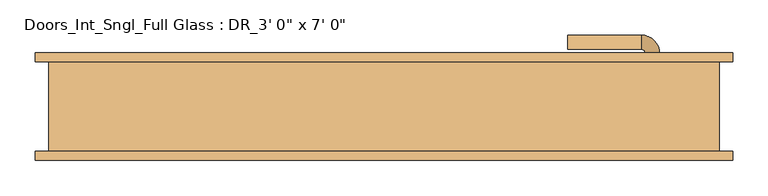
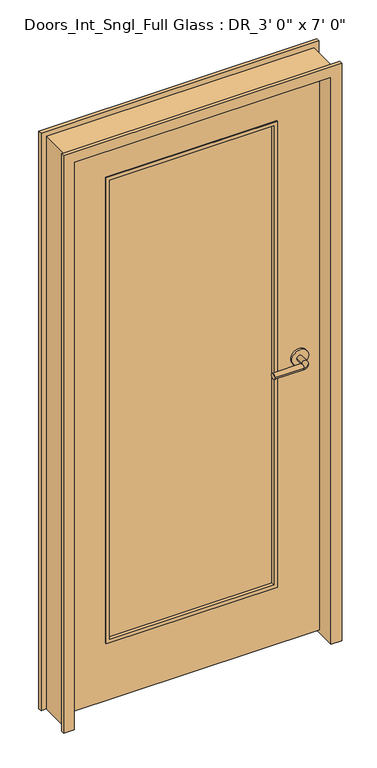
"""IFC4 building model written with IfcOpenShell, lengths in millimetres: door geometry."""

from ifc_helpers import new_model, si_unit, point, frame, frame_2d, origin, place, context, project, spatial, polyline, circle_curve, ellipse_curve, trimmed, segment, composite_curve, outline, extrude, faceted_brep, source, transform, mapped, element, save
from ifc_brep_helpers import plane_surface, cylinder_surface, revolved_surface, advanced_brep


def door_d7cb423d(model_context):
    return source(origin(), model_context, "Body", "SolidModel", [
        advanced_brep(
        [(391.0, 46.1, 1066.8), (371.0, 46.1, 1066.8), (371.0, 76.1, 1066.8), (391.0, 76.1, 1066.8), (366.0, 81.1, 1066.8), (366.0, 101.1, 1066.8), (261.0, 101.1, 1066.8), (261.0, 81.1, 1066.8)],
        [
            (0, 1, circle_curve(frame((381.0, 46.1, 1066.8), z_axis=(0.0, -1.0, 0.0), x_axis=(-0.9999999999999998, 0.0, 0.0)), 10.0)),
            (1, 0, circle_curve(frame((381.0, 46.1, 1066.8), z_axis=(0.0, -1.0, 0.0), x_axis=(-0.9999999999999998, 0.0, 0.0)), 10.0)),
            (1, 2),
            (2, 3, circle_curve(frame((381.0, 76.1, 1066.8), z_axis=(0.0, -1.0, 0.0), x_axis=(-0.9999999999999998, 0.0, 0.0)), 10.0)),
            (3, 0),
            (3, 2, circle_curve(frame((381.0, 76.1, 1066.8), z_axis=(0.0, -1.0, 0.0), x_axis=(-0.9999999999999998, 0.0, 0.0)), 10.0)),
            (4, 5, circle_curve(frame((366.0, 91.1, 1066.8), z_axis=(0.9999999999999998, 0.0, 0.0), x_axis=(0.0, -0.9999999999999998, 0.0)), 10.0)),
            (5, 3, circle_curve(frame((366.0, 76.1, 1066.8), z_axis=(0.0, 0.0, -1.0), x_axis=(0.9999999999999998, 0.0, 0.0)), 25.0)),
            (2, 4, circle_curve(frame((366.0, 76.1, 1066.8), z_axis=(0.0, 0.0, 1.0), x_axis=(0.9999999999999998, 0.0, 0.0)), 5.0)),
            (5, 4, circle_curve(frame((366.0, 91.1, 1066.8), z_axis=(0.9999999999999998, 0.0, 0.0), x_axis=(0.0, -0.9999999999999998, 0.0)), 10.0)),
            (6, 7, circle_curve(frame((261.0, 91.1, 1066.8), z_axis=(-1.0, 0.0, 0.0), x_axis=(0.0, -0.9999999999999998, 0.0)), 10.0)),
            (7, 6, circle_curve(frame((261.0, 91.1, 1066.8), z_axis=(-1.0, 0.0, 0.0), x_axis=(0.0, -0.9999999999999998, 0.0)), 10.0)),
            (4, 7),
            (6, 5),
        ],
        [
            plane_surface(frame((381.0, 46.1, 1066.8), z_axis=(0.0, -1.0, 0.0), x_axis=(0.0, 0.0, 1.0))),
            cylinder_surface(frame((381.0, 46.1, 1066.8), z_axis=(0.0, -0.9999999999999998, 0.0), x_axis=(-0.9999999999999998, 0.0, 0.0)), 10.0),
            revolved_surface(trimmed(ellipse_curve(frame((381.0, 76.1, 1066.8), z_axis=(0.0, 0.9999999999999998, 0.0), x_axis=(-0.9999999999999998, 0.0, 0.0)), 10.0, 10.0), [point((391.0, 76.1, 1066.8))], [point((371.0, 76.1, 1066.8))], True, "CARTESIAN"), (366.0, 76.1, 1066.8), (0.0, 0.0, -1.0)),
            revolved_surface(trimmed(ellipse_curve(frame((381.0, 76.1, 1066.8), z_axis=(0.0, 0.9999999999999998, 0.0), x_axis=(-0.9999999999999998, 0.0, 0.0)), 10.0, 10.0), [point((371.0, 76.1, 1066.8))], [point((391.0, 76.1, 1066.8))], True, "CARTESIAN"), (366.0, 76.1, 1066.8), (0.0, 0.0, -1.0)),
            plane_surface(frame((261.0, 91.1, 1066.8), z_axis=(-1.0, 0.0, 0.0), x_axis=(0.0, 0.0, 1.0))),
            cylinder_surface(frame((366.0, 91.1, 1066.8), z_axis=(0.9999999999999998, 0.0, 0.0), x_axis=(0.0, -0.9999999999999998, 0.0)), 10.0),
        ],
        [
            (0, [[1, 2]]),
            (1, [[3, 4, 5, -2]]),
            (1, [[-5, 6, -3, -1]]),
            (2, [[7, 8, -4, 9]]),
            (3, [[10, -9, -6, -8]]),
            (4, [[11, 12]]),
            (5, [[13, -11, 14, -7]]),
            (5, [[-14, -12, -13, -10]]),
        ],
    ),
        extrude(outline(composite_curve([segment(trimmed(circle_curve(frame_2d((1066.8, 383.5)), 30.0), [point((1066.8, 413.5))], [point((1066.8, 353.5))], False, "CARTESIAN"), True, "CONTINUOUS"), segment(trimmed(circle_curve(frame_2d((1066.8, 383.5)), 30.0), [point((1066.8, 353.5))], [point((1066.8, 413.5))], False, "CARTESIAN"), True, "CONTINUOUS")], self_intersect=False)), frame((0.0, 38.1, 0.0), z_axis=(0.0, 1.0, 0.0), x_axis=(0.0, 0.0, 1.0)), (0.0, 0.0, 1.0), 8.0),
        advanced_brep(
        [(391.0, -14.35, 1066.8), (371.0, -14.35, 1066.8), (391.0, -44.35, 1066.8), (371.0, -44.35, 1066.8), (366.0, -49.35, 1066.8), (366.0, -69.35, 1066.8), (261.0, -69.35, 1066.8), (261.0, -49.35, 1066.8)],
        [
            (0, 1, circle_curve(frame((381.0, -14.35, 1066.8), z_axis=(0.0, 1.0, 0.0), x_axis=(-0.9999999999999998, 0.0, 0.0)), 10.0)),
            (1, 0, circle_curve(frame((381.0, -14.35, 1066.8), z_axis=(0.0, 1.0, 0.0), x_axis=(-0.9999999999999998, 0.0, 0.0)), 10.0)),
            (0, 2),
            (2, 3, circle_curve(frame((381.0, -44.35, 1066.8), z_axis=(0.0, 1.0, 0.0), x_axis=(-0.9999999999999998, 0.0, 0.0)), 10.0)),
            (3, 1),
            (3, 2, circle_curve(frame((381.0, -44.35, 1066.8), z_axis=(0.0, 1.0, 0.0), x_axis=(-0.9999999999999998, 0.0, 0.0)), 10.0)),
            (4, 3, circle_curve(frame((366.0, -44.35, 1066.8), z_axis=(0.0, 0.0, 1.0), x_axis=(0.9999999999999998, 0.0, 0.0)), 5.0)),
            (2, 5, circle_curve(frame((366.0, -44.35, 1066.8), z_axis=(0.0, 0.0, -1.0), x_axis=(0.9999999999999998, 0.0, 0.0)), 25.0)),
            (5, 4, circle_curve(frame((366.0, -59.35, 1066.8), z_axis=(0.9999999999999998, 0.0, 0.0), x_axis=(0.0, 0.9999999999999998, 0.0)), 10.0)),
            (4, 5, circle_curve(frame((366.0, -59.35, 1066.8), z_axis=(0.9999999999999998, 0.0, 0.0), x_axis=(0.0, 0.9999999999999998, 0.0)), 10.0)),
            (6, 7, circle_curve(frame((261.0, -59.35, 1066.8), z_axis=(-1.0, 0.0, 0.0), x_axis=(0.0, 0.9999999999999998, 0.0)), 10.0)),
            (7, 6, circle_curve(frame((261.0, -59.35, 1066.8), z_axis=(-1.0, 0.0, 0.0), x_axis=(0.0, 0.9999999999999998, 0.0)), 10.0)),
            (5, 6),
            (7, 4),
        ],
        [
            plane_surface(frame((381.0, -14.35, 1066.8), z_axis=(0.0, 1.0, 0.0), x_axis=(0.0, 0.0, 1.0))),
            cylinder_surface(frame((381.0, -14.35, 1066.8), z_axis=(0.0, 0.9999999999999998, 0.0), x_axis=(-0.9999999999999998, 0.0, 0.0)), 10.0),
            revolved_surface(trimmed(ellipse_curve(frame((381.0, -44.35, 1066.8), z_axis=(0.0, 0.9999999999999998, 0.0), x_axis=(-0.9999999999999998, 0.0, 0.0)), 10.0, 10.0), [point((391.0, -44.35, 1066.8))], [point((371.0, -44.35, 1066.8))], True, "CARTESIAN"), (366.0, -44.35, 1066.8), (0.0, 0.0, -1.0)),
            revolved_surface(trimmed(ellipse_curve(frame((381.0, -44.35, 1066.8), z_axis=(0.0, 0.9999999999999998, 0.0), x_axis=(-0.9999999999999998, 0.0, 0.0)), 10.0, 10.0), [point((371.0, -44.35, 1066.8))], [point((391.0, -44.35, 1066.8))], True, "CARTESIAN"), (366.0, -44.35, 1066.8), (0.0, 0.0, -1.0)),
            plane_surface(frame((261.0, -59.35, 1066.8), z_axis=(-1.0, 0.0, 0.0), x_axis=(0.0, 0.0, 1.0))),
            cylinder_surface(frame((366.0, -59.35, 1066.8), z_axis=(0.9999999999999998, 0.0, 0.0), x_axis=(0.0, 0.9999999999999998, 0.0)), 10.0),
        ],
        [
            (0, [[1, 2]]),
            (1, [[-1, 3, 4, 5]]),
            (1, [[-2, -5, 6, -3]]),
            (2, [[7, -4, 8, 9]]),
            (3, [[-8, -6, -7, 10]]),
            (4, [[11, 12]]),
            (5, [[-9, 13, -12, 14]]),
            (5, [[-10, -14, -11, -13]]),
        ],
    ),
        extrude(outline(composite_curve([segment(trimmed(circle_curve(frame_2d((1066.8, 383.5)), 30.0), [point((1066.8, 413.5))], [point((1066.8, 353.5))], False, "CARTESIAN"), True, "CONTINUOUS"), segment(trimmed(circle_curve(frame_2d((1066.8, 383.5)), 30.0), [point((1066.8, 353.5))], [point((1066.8, 413.5))], False, "CARTESIAN"), True, "CONTINUOUS")], self_intersect=False)), frame((0.0, -14.35, 0.0), z_axis=(0.0, 1.0, 0.0), x_axis=(0.0, 0.0, 1.0)), (0.0, 0.0, 1.0), 8.0),
        extrude(outline(polyline([(292.1, 3.175), (-292.1, 3.175), (-292.1, 28.575), (292.1, 28.575), (292.1, 3.175)])), frame((0.0, 0.0, 241.3), z_axis=(0.0, 0.0, 1.0), x_axis=(1.0, 0.0, 0.0)), (0.0, 0.0, 1.0), 1727.2),
        extrude(outline(polyline([(228.6, -304.8), (228.6, 304.8), (1981.2, 304.8), (1981.2, -304.8), (228.6, -304.8)]), holes=[polyline([(241.3, -292.1), (1968.5, -292.1), (1968.5, 292.1), (241.3, 292.1), (241.3, -292.1)])]), frame((0.0, -9.525, 0.0), z_axis=(0.0, 1.0, 0.0), x_axis=(0.0, 0.0, 1.0)), (0.0, 0.0, 1.0), 50.8),
        extrude(outline(polyline([(2133.6, 457.2), (2133.6, -457.2), (12.7, -457.2), (12.7, 457.2), (2133.6, 457.2)]), holes=[polyline([(228.6, -304.8), (1981.2, -304.8), (1981.2, 304.8), (228.6, 304.8), (228.6, -304.8)])]), frame((0.0, -6.35, 0.0), z_axis=(0.0, 1.0, 0.0), x_axis=(0.0, 0.0, 1.0)), (0.0, 0.0, 1.0), 44.45),
        faceted_brep([(-457.2, -76.2, 0.0), (-495.3, -76.2, 0.0), (-495.3, -63.5, 0.0), (-476.25, -63.5, 0.0), (-476.25, 63.5, 0.0), (-495.3, 63.5, 0.0), (-495.3, 76.2, 0.0), (-457.2, 76.2, 0.0), (-457.2, -76.2, 2133.6), (457.2, -76.2, 2133.6), (457.2, -76.2, 0.0), (495.3, -76.2, 0.0), (495.3, -76.2, 2171.7), (-495.3, -76.2, 2171.7), (-495.3, -63.5, 2171.7), (495.3, -63.5, 2171.7), (495.3, -63.5, 0.0), (476.25, -63.5, 0.0), (476.25, -63.5, 2152.65), (-476.25, -63.5, 2152.65), (-476.25, 63.5, 2152.65), (476.25, 63.5, 2152.65), (476.25, 63.5, 0.0), (495.3, 63.5, 0.0), (495.3, 63.5, 2171.7), (-495.3, 63.5, 2171.7), (-495.3, 76.2, 2171.7), (495.3, 76.2, 2171.7), (495.3, 76.2, 0.0), (457.2, 76.2, 0.0), (457.2, 76.2, 2133.6), (-457.2, 76.2, 2133.6)], [[[0, 1, 2, 3, 4, 5, 6, 7]], [[1, 0, 8, 9, 10, 11, 12, 13]], [[2, 1, 13, 14]], [[3, 2, 14, 15, 16, 17, 18, 19]], [[4, 3, 19, 20]], [[5, 4, 20, 21, 22, 23, 24, 25]], [[6, 5, 25, 26]], [[7, 6, 26, 27, 28, 29, 30, 31]], [[0, 7, 31, 8]], [[9, 30, 29, 10]], [[10, 29, 28, 23, 22, 17, 16, 11]], [[15, 12, 11, 16]], [[27, 24, 23, 28]], [[21, 18, 17, 22]], [[20, 19, 18, 21]], [[8, 31, 30, 9]], [[14, 13, 12, 15]], [[26, 25, 24, 27]]]),
    ])


if __name__ == "__main__":
    model = new_model("IFC4")
    model_context = context("Model", 3, world=origin())
    ifc_project = project(units=[si_unit("LENGTHUNIT", "METRE", prefix="MILLI")], contexts=[model_context])
    site = spatial("IfcSite", under=ifc_project)
    building = spatial("IfcBuilding", under=site)
    placement = place(None, origin())
    door_shape = door_d7cb423d(model_context)
    element("IfcDoor", 1, ObjectType="Doors_Int_Sngl_Full Glass : DR_3' 0\" x 7' 0\"", at=placement, inside=building, context=model_context, shape_type="MappedRepresentation", body=[
        mapped(door_shape, transform((0.0, 0.0, 0.0), x_axis=(1.0, 0.0, 0.0), y_axis=(0.0, 1.0, 0.0), z_axis=(0.0, 0.0, 1.0))),
    ])
    save(model, "model.ifc")
